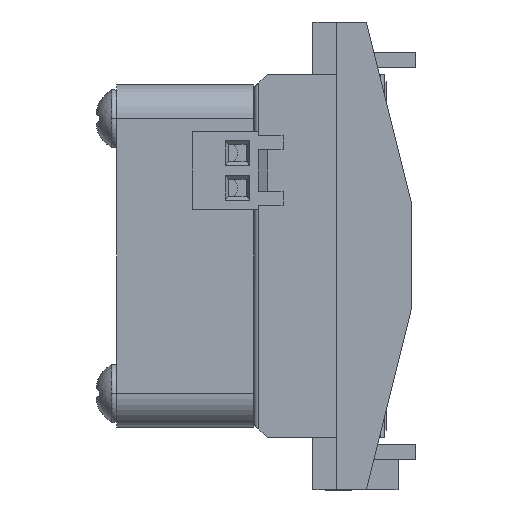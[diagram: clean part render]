
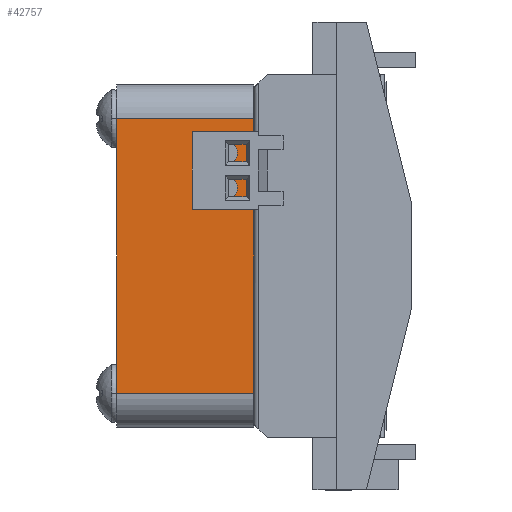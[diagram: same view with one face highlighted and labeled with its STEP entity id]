
A CAD part, left-side view. The second image highlights one B-rep face of the part: STEP entity #42757.
In plain terms, the highlighted planar face has unit normal (-1, 0, 0).
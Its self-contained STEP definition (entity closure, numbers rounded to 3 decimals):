
#210 = AXIS2_PLACEMENT_3D ( 'NONE', #10353, #20284, #4855 ) ;
#1302 = ORIENTED_EDGE ( 'NONE', *, *, #48284, .F. ) ;
#2722 = ORIENTED_EDGE ( 'NONE', *, *, #37520, .F. ) ;
#3004 = VERTEX_POINT ( 'NONE', #57363 ) ;
#3138 = CARTESIAN_POINT ( 'NONE',  ( -12.5, 11.5, 6.738 ) ) ;
#3945 = EDGE_CURVE ( 'NONE', #3004, #12235, #43071, .T. ) ;
#4855 = DIRECTION ( 'NONE',  ( 0., 0., -1. ) ) ;
#8784 = DIRECTION ( 'NONE',  ( -1., 0., 0. ) ) ;
#9830 = CIRCLE ( 'NONE', #10926, 0.762 ) ;
#10262 = EDGE_LOOP ( 'NONE', ( #36931, #30429 ) ) ;
#10353 = CARTESIAN_POINT ( 'NONE',  ( -12.5, 11.5, 7.5 ) ) ;
#10489 = EDGE_CURVE ( 'NONE', #43064, #51067, #42198, .T. ) ;
#10902 = CARTESIAN_POINT ( 'NONE',  ( -12.5, 19.5, -10. ) ) ;
#10926 = AXIS2_PLACEMENT_3D ( 'NONE', #44205, #32321, #27208 ) ;
#12235 = VERTEX_POINT ( 'NONE', #3138 ) ;
#13604 = CARTESIAN_POINT ( 'NONE',  ( -12.5, 19.5, -10. ) ) ;
#13633 = CARTESIAN_POINT ( 'NONE',  ( -12.5, 9.5, -10. ) ) ;
#15113 = EDGE_CURVE ( 'NONE', #53098, #20453, #60515, .T. ) ;
#17160 = EDGE_CURVE ( 'NONE', #48169, #48462, #61866, .T. ) ;
#20092 = DIRECTION ( 'NONE',  ( 0., 0., -1. ) ) ;
#20284 = DIRECTION ( 'NONE',  ( -1., 0., 0. ) ) ;
#20453 = VERTEX_POINT ( 'NONE', #59597 ) ;
#21039 = EDGE_LOOP ( 'NONE', ( #45756, #2722, #39862, #46137 ) ) ;
#21483 = DIRECTION ( 'NONE',  ( 0., 0., -1. ) ) ;
#21510 = DIRECTION ( 'NONE',  ( 0., -1., 0. ) ) ;
#23299 = DIRECTION ( 'NONE',  ( -1., 0., 0. ) ) ;
#24333 = VECTOR ( 'NONE', #39635, 1000. ) ;
#27208 = DIRECTION ( 'NONE',  ( 0., 0., -1. ) ) ;
#27406 = EDGE_CURVE ( 'NONE', #48169, #53098, #32789, .T. ) ;
#28102 = CARTESIAN_POINT ( 'NONE',  ( -12.5, 19.5, 10. ) ) ;
#30429 = ORIENTED_EDGE ( 'NONE', *, *, #3945, .F. ) ;
#31409 = PLANE ( 'NONE',  #55339 ) ;
#32321 = DIRECTION ( 'NONE',  ( -1., 0., 0. ) ) ;
#32789 = LINE ( 'NONE', #10902, #38505 ) ;
#33549 = DIRECTION ( 'NONE',  ( 0., -1., 0. ) ) ;
#34305 = CARTESIAN_POINT ( 'NONE',  ( -12.5, 9.5, -10. ) ) ;
#34836 = CARTESIAN_POINT ( 'NONE',  ( -12.5, 11.5, 4.96 ) ) ;
#36482 = CARTESIAN_POINT ( 'NONE',  ( -12.5, 11.5, 5.722 ) ) ;
#36931 = ORIENTED_EDGE ( 'NONE', *, *, #58498, .F. ) ;
#37520 = EDGE_CURVE ( 'NONE', #48462, #20453, #54079, .T. ) ;
#37555 = CARTESIAN_POINT ( 'NONE',  ( -12.5, 19.5, 10. ) ) ;
#38047 = CARTESIAN_POINT ( 'NONE',  ( -12.5, 11.5, 7.5 ) ) ;
#38505 = VECTOR ( 'NONE', #21510, 1000. ) ;
#39635 = DIRECTION ( 'NONE',  ( 0., 0., 1. ) ) ;
#39862 = ORIENTED_EDGE ( 'NONE', *, *, #17160, .F. ) ;
#42198 = CIRCLE ( 'NONE', #48703, 0.762 ) ;
#42692 = FACE_BOUND ( 'NONE', #44084, .T. ) ;
#42757 = ADVANCED_FACE ( 'NONE', ( #47090, #57392, #42692 ), #31409, .F. ) ;
#43064 = VERTEX_POINT ( 'NONE', #36482 ) ;
#43071 = CIRCLE ( 'NONE', #61690, 0.762 ) ;
#43804 = DIRECTION ( 'NONE',  ( 0., 0., -1. ) ) ;
#44084 = EDGE_LOOP ( 'NONE', ( #1302, #44391 ) ) ;
#44205 = CARTESIAN_POINT ( 'NONE',  ( -12.5, 11.5, 4.96 ) ) ;
#44391 = ORIENTED_EDGE ( 'NONE', *, *, #10489, .F. ) ;
#44482 = CARTESIAN_POINT ( 'NONE',  ( -12.5, 11.5, 4.198 ) ) ;
#45756 = ORIENTED_EDGE ( 'NONE', *, *, #15113, .T. ) ;
#46137 = ORIENTED_EDGE ( 'NONE', *, *, #27406, .T. ) ;
#47090 = FACE_OUTER_BOUND ( 'NONE', #21039, .T. ) ;
#48169 = VERTEX_POINT ( 'NONE', #63440 ) ;
#48284 = EDGE_CURVE ( 'NONE', #51067, #43064, #9830, .T. ) ;
#48462 = VERTEX_POINT ( 'NONE', #37555 ) ;
#48703 = AXIS2_PLACEMENT_3D ( 'NONE', #34836, #8784, #20092 ) ;
#49302 = CIRCLE ( 'NONE', #210, 0.762 ) ;
#51067 = VERTEX_POINT ( 'NONE', #44482 ) ;
#52599 = DIRECTION ( 'NONE',  ( 1., 0., 0. ) ) ;
#53098 = VERTEX_POINT ( 'NONE', #34305 ) ;
#53298 = CARTESIAN_POINT ( 'NONE',  ( -12.5, 19.5, -10. ) ) ;
#54079 = LINE ( 'NONE', #28102, #60471 ) ;
#55339 = AXIS2_PLACEMENT_3D ( 'NONE', #53298, #52599, #21483 ) ;
#57339 = DIRECTION ( 'NONE',  ( 0., 0., 1. ) ) ;
#57363 = CARTESIAN_POINT ( 'NONE',  ( -12.5, 11.5, 8.262 ) ) ;
#57392 = FACE_BOUND ( 'NONE', #10262, .T. ) ;
#58498 = EDGE_CURVE ( 'NONE', #12235, #3004, #49302, .T. ) ;
#59597 = CARTESIAN_POINT ( 'NONE',  ( -12.5, 9.5, 10. ) ) ;
#60471 = VECTOR ( 'NONE', #33549, 1000. ) ;
#60515 = LINE ( 'NONE', #13633, #62925 ) ;
#61690 = AXIS2_PLACEMENT_3D ( 'NONE', #38047, #23299, #43804 ) ;
#61866 = LINE ( 'NONE', #13604, #24333 ) ;
#62925 = VECTOR ( 'NONE', #57339, 1000. ) ;
#63440 = CARTESIAN_POINT ( 'NONE',  ( -12.5, 19.5, -10. ) ) ;
